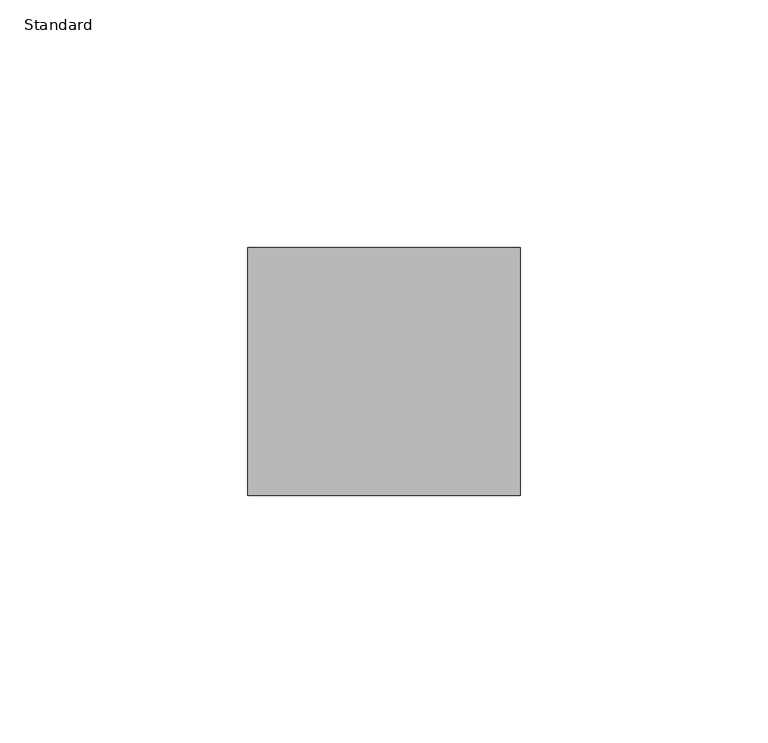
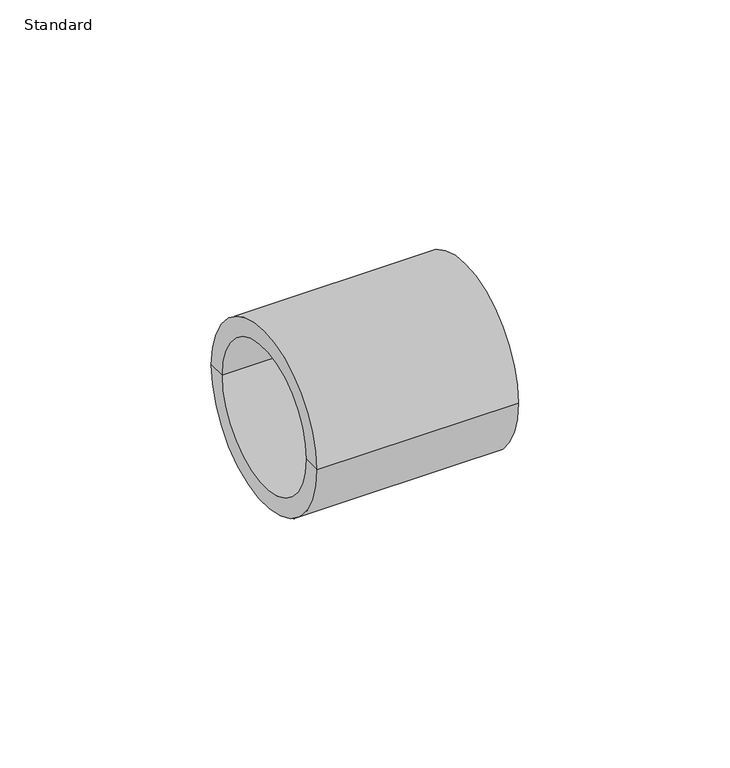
"""IFC4 building model written with IfcOpenShell, lengths in millimetres: pipe fitting geometry, Durapipe_PipeFitting_PVC_Socket : Standard."""

from ifc_helpers import new_model, si_unit, frame, origin, place, context, project, spatial, polyline, circle_curve, source, transform, mapped, element, save
from ifc_brep_helpers import plane_surface, cylinder_surface, revolved_surface, advanced_brep


def standard_ac4fea29(model_context):
    return source(origin(), model_context, "Body", "AdvancedBrep", [
        advanced_brep(
        [(-27.5, -25.0, 0.0), (-27.5, 25.0, 0.0), (27.5, 25.0, 0.0), (27.5, -25.0, 0.0), (-27.5, -20.0, 0.0), (-27.5, 20.0, 0.0), (1.5, -17.0, 0.0), (1.5, 17.0, 0.0), (-1.5, 17.0, 0.0), (-1.5, -17.0, 0.0), (27.5, 20.0, 0.0), (27.5, -20.0, 0.0), (-1.5, -20.0, 0.0), (-1.5, 20.0, 0.0), (1.5, -20.0, 0.0), (1.5, 20.0, 0.0)],
        [
            (0, 1, circle_curve(frame((-27.5, 0.0, 0.0), z_axis=(1.0, 0.0, 0.0), x_axis=(0.0, 1.0, 0.0)), 25.0)),
            (1, 2),
            (2, 3, circle_curve(frame((27.5, 0.0, 0.0), z_axis=(-1.0, 0.0, 0.0), x_axis=(0.0, 1.0, 0.0)), 25.0)),
            (3, 0),
            (1, 0, circle_curve(frame((-27.5, 0.0, 0.0), z_axis=(1.0, 0.0, 0.0), x_axis=(0.0, 1.0, 0.0)), 25.0)),
            (3, 2, circle_curve(frame((27.5, 0.0, 0.0), z_axis=(-1.0, 0.0, 0.0), x_axis=(0.0, 1.0, 0.0)), 25.0)),
            (4, 5, circle_curve(frame((-27.5, 0.0, 0.0), z_axis=(1.0, 0.0, 0.0), x_axis=(0.0, 1.0, 0.0)), 20.0)),
            (5, 1),
            (0, 4),
            (5, 4, circle_curve(frame((-27.5, 0.0, 0.0), z_axis=(1.0, 0.0, 0.0), x_axis=(0.0, 1.0, 0.0)), 20.0)),
            (6, 7, circle_curve(frame((1.5, 0.0, 0.0), z_axis=(1.0, 0.0, 0.0), x_axis=(0.0, 1.0, 0.0)), 17.0)),
            (7, 8),
            (8, 9, circle_curve(frame((-1.5, 0.0, 0.0), z_axis=(-1.0, 0.0, 0.0), x_axis=(0.0, 1.0, 0.0)), 17.0)),
            (9, 6),
            (7, 6, circle_curve(frame((1.5, 0.0, 0.0), z_axis=(1.0, 0.0, 0.0), x_axis=(0.0, 1.0, 0.0)), 17.0)),
            (9, 8, circle_curve(frame((-1.5, 0.0, 0.0), z_axis=(-1.0, 0.0, 0.0), x_axis=(0.0, 1.0, 0.0)), 17.0)),
            (2, 10),
            (10, 11, circle_curve(frame((27.5, 0.0, 0.0), z_axis=(-1.0, 0.0, 0.0), x_axis=(0.0, 1.0, 0.0)), 20.0)),
            (11, 3),
            (11, 10, circle_curve(frame((27.5, 0.0, 0.0), z_axis=(-1.0, 0.0, 0.0), x_axis=(0.0, 1.0, 0.0)), 20.0)),
            (12, 13, circle_curve(frame((-1.5, 0.0, 0.0), z_axis=(1.0, 0.0, 0.0), x_axis=(0.0, 1.0, 0.0)), 20.0)),
            (13, 5),
            (4, 12),
            (13, 12, circle_curve(frame((-1.5, 0.0, 0.0), z_axis=(1.0, 0.0, 0.0), x_axis=(0.0, 1.0, 0.0)), 20.0)),
            (8, 13),
            (12, 9),
            (14, 15, circle_curve(frame((1.5, 0.0, 0.0), z_axis=(1.0, 0.0, 0.0), x_axis=(0.0, 1.0, 0.0)), 20.0)),
            (15, 7),
            (6, 14),
            (15, 14, circle_curve(frame((1.5, 0.0, 0.0), z_axis=(1.0, 0.0, 0.0), x_axis=(0.0, 1.0, 0.0)), 20.0)),
            (10, 15),
            (14, 11),
        ],
        [
            cylinder_surface(frame((-27.5, 0.0, 0.0), z_axis=(-1.0, 0.0, 0.0), x_axis=(0.0, 1.0, 0.0)), 25.0),
            plane_surface(frame((-27.5, 0.0, 0.0), z_axis=(-1.0, 0.0, 0.0), x_axis=(0.0, 1.0, 0.0))),
            revolved_surface(polyline([(-1.5, 17.0, 0.0), (1.5, 17.0, 0.0)]), (-27.5, 0.0, 0.0), (-1.0, 0.0, 0.0)),
            plane_surface(frame((27.5, 0.0, 0.0), z_axis=(1.0, 0.0, 0.0), x_axis=(0.0, 1.0, 0.0))),
            revolved_surface(polyline([(-27.5, 20.0, 0.0), (-1.5, 20.0, 0.0)]), (-27.5, 0.0, 0.0), (-1.0, 0.0, 0.0)),
            plane_surface(frame((-1.5, 0.0, 0.0), z_axis=(-1.0, 0.0, 0.0), x_axis=(0.0, 1.0, 0.0))),
            plane_surface(frame((1.5, 0.0, 0.0), z_axis=(1.0, 0.0, 0.0), x_axis=(0.0, 1.0, 0.0))),
            revolved_surface(polyline([(1.5, 20.0, 0.0), (27.5, 20.0, 0.0)]), (-27.5, 0.0, 0.0), (-1.0, 0.0, 0.0)),
        ],
        [
            (0, [[1, 2, 3, 4]]),
            (0, [[5, -4, 6, -2]]),
            (1, [[7, 8, -1, 9]]),
            (1, [[10, -9, -5, -8]]),
            (2, [[11, 12, 13, 14]]),
            (2, [[15, -14, 16, -12]]),
            (3, [[-3, 17, 18, 19]]),
            (3, [[-6, -19, 20, -17]]),
            (4, [[21, 22, -7, 23]]),
            (4, [[24, -23, -10, -22]]),
            (5, [[-13, 25, -21, 26]]),
            (5, [[-16, -26, -24, -25]]),
            (6, [[27, 28, -11, 29]]),
            (6, [[30, -29, -15, -28]]),
            (7, [[-18, 31, -27, 32]]),
            (7, [[-20, -32, -30, -31]]),
        ],
    ),
    ])


if __name__ == "__main__":
    model = new_model("IFC4")
    model_context = context("Model", 3, world=origin())
    ifc_project = project(units=[si_unit("LENGTHUNIT", "METRE", prefix="MILLI")], contexts=[model_context])
    site = spatial("IfcSite", under=ifc_project)
    building = spatial("IfcBuilding", under=site)
    placement = place(None, origin())
    standard_shape = standard_ac4fea29(model_context)
    element("IfcPipeFitting", 1, ObjectType="Durapipe_PipeFitting_PVC_Socket : Standard", at=placement, inside=building, context=model_context, shape_type="MappedRepresentation", body=[
        mapped(standard_shape, transform((0.0, 0.0, 0.0), x_axis=(1.0, 0.0, 0.0), y_axis=(0.0, 1.0, 0.0), z_axis=(0.0, 0.0, 1.0))),
    ])
    save(model, "model.ifc")
